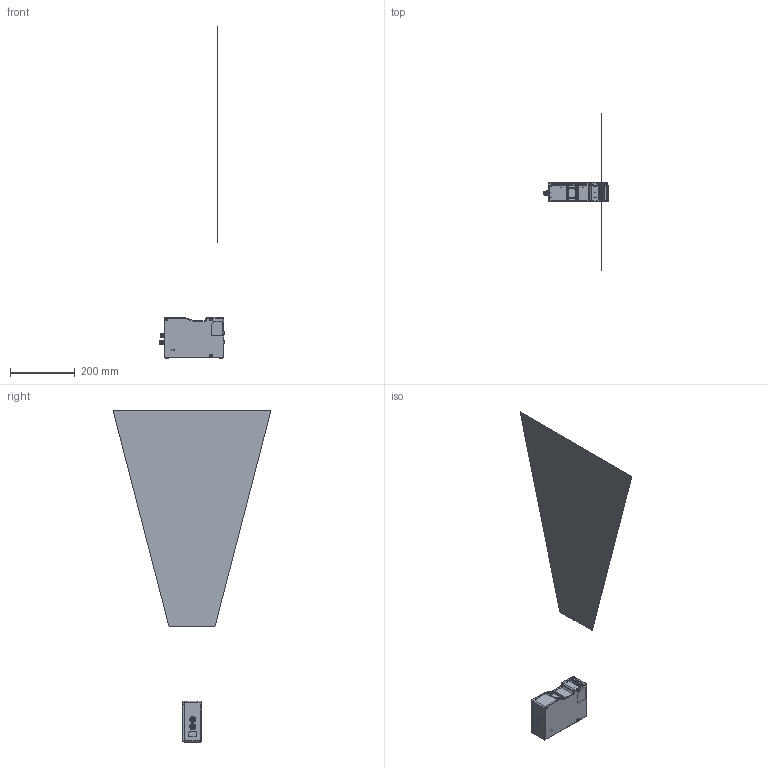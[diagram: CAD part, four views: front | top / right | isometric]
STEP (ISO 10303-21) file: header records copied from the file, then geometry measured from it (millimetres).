
FILE_DESCRIPTION((''),'2;1');
FILE_NAME('0000-DP2470-2240-V2_0_ASM_1_ASM','2024-02-01T14:39:37',('liudeting'),(''),'CREO PARAMETRIC BY PTC INC, 2020044','CREO PARAMETRIC BY PTC INC, 2020044','');
FILE_SCHEMA(('CONFIG_CONTROL_DESIGN'));
Products named in the file (45): HANGKONGTOUFPC_1_ASM; L102-M12-Z08A11F_1; L102-M12-Z12A23C_1_1; L102-M12-Z12A23C_1_2; L102-M12-Z12A23C_1_3; L102-M12-Z12A23C_1_4; L102-M12-Z12A23C_1_5; L102-M12-Z12A23C_1_6; L102-M12-Z12A23C_1_7; L102-M12-Z12A23C_1_8; L102-M12-Z12A23C_1_9; L102-M12-Z12A23C_1_10; L102-M12-Z12A23C_1_11; L102-M12-Z12A23C_1_12; L102-M12-Z12A23C_1_13; L102-M12-Z12A23C_1_14; L102-M12-Z12A23C_1_15; L102-M12-Z12A23C_1_16; L102-M12-Z12A23C_1_17; L102-M12-Z12A23C_1_18; L102-M12-Z12A23C_1_19; L102-M12-Z12A23C_1_20; L102-M12-Z12A23C_1_21; L102-M12-Z12A23C_1_22; L102-M12-Z12A23C_1_23; L102-M12-Z12A23C_1_24; L102-M12-Z12A23C_1_25; L102-M12-Z12A23C_1_26; L102-M12-Z12A23C_1_ASM; DE-14-032741_ASM_1_ASM; DE-14-005311_1; JINGTOUXIANWEIGONGZHUANG_ASM_1; DE-14-044133_1; DE-18-000119_1; SC-KM2X4-H-B_1; DE-20-017297-2470V2_0-NEW_ASM_1_ASM; DE-14-035651_1; DE-18-000160_1; LASER-GAIBAN-4550_ASM_1_ASM; DE-13-001557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
Assembly tree (51 placements, depth 4):
  0000-DP2470-2240-V2_0_ASM_1_ASM
    DE-14-032741_ASM_1_ASM
      HANGKONGTOUFPC_1_ASM
      L102-M12-Z08A11F_1
      L102-M12-Z12A23C_1_ASM
        L102-M12-Z12A23C_1_1
        L102-M12-Z12A23C_1_2
        L102-M12-Z12A23C_1_3
        L102-M12-Z12A23C_1_4
        L102-M12-Z12A23C_1_5
        L102-M12-Z12A23C_1_6
        L102-M12-Z12A23C_1_7
        L102-M12-Z12A23C_1_8
        L102-M12-Z12A23C_1_9
        L102-M12-Z12A23C_1_10
        L102-M12-Z12A23C_1_11
        L102-M12-Z12A23C_1_12
        L102-M12-Z12A23C_1_13
        L102-M12-Z12A23C_1_14
        L102-M12-Z12A23C_1_15
        L102-M12-Z12A23C_1_16
        L102-M12-Z12A23C_1_17
        L102-M12-Z12A23C_1_18
        L102-M12-Z12A23C_1_19
        L102-M12-Z12A23C_1_20
        L102-M12-Z12A23C_1_21
        L102-M12-Z12A23C_1_22
        L102-M12-Z12A23C_1_23
        L102-M12-Z12A23C_1_24
        L102-M12-Z12A23C_1_25
        L102-M12-Z12A23C_1_26
    DE-14-005311_1
    JINGTOUXIANWEIGONGZHUANG_ASM_1
    DE-20-017297-2470V2_0-NEW_ASM_1_ASM
      DE-14-044133_1
      DE-18-000119_1
      SC-KM2X4-H-B_1  x4
    LASER-GAIBAN-4550_ASM_1_ASM
      DE-14-035651_1
      DE-18-000160_1
      SC-KM2X4-H-B_1  x4
    KAIMOJIANZHENGHE-22402470_ASM
      DE-13-001555_ASM
        DE-13-001557
      DE-13-001560_ASM
        DE-13-001561
Bounding box: 198.3 x 488 x 1025.45 mm (x, y, z)
Volume: 1294989.3 mm3; surface area: 359132.6 mm2
Topology: 42 solids, 69 shells, 2174 faces, 5675 edges, 3644 vertices
Faces by surface type: cylinder 746, plane 642, cone 454, bspline 171, torus 120, sphere 40, extrusion 1
Entity records: 85031 total; most frequent: CARTESIAN_POINT 34472, DIRECTION 10442, ORIENTED_EDGE 10428, EDGE_CURVE 5239, AXIS2_PLACEMENT_3D 4124, VERTEX_POINT 3420, EDGE_LOOP 2291, VECTOR 2194
